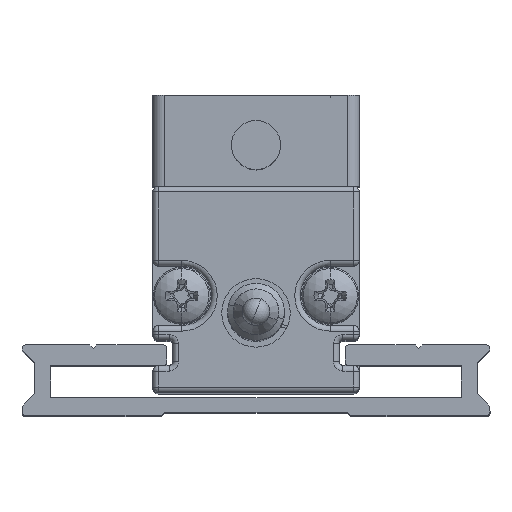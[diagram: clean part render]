
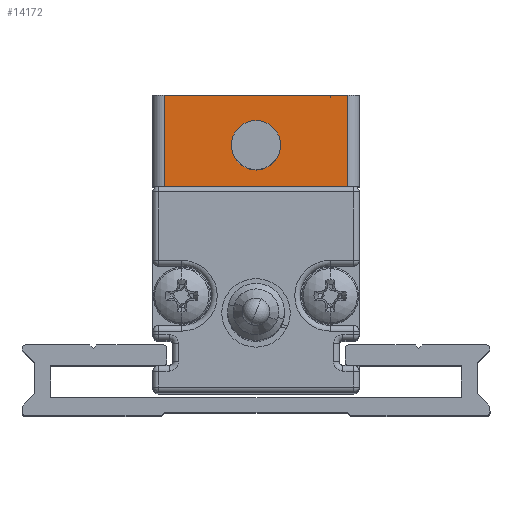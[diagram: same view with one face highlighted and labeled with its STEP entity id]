
A CAD part, top view. The second image highlights one B-rep face of the part: STEP entity #14172.
In plain terms, the highlighted planar face has unit normal (0, 0, 1).
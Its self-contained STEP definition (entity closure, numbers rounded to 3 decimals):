
#97 = DIRECTION ( 'NONE',  ( 0., -1., 0. ) ) ;
#398 = ORIENTED_EDGE ( 'NONE', *, *, #25614, .F. ) ;
#848 = VERTEX_POINT ( 'NONE', #13842 ) ;
#908 = PLANE ( 'NONE',  #1982 ) ;
#1701 = CIRCLE ( 'NONE', #24763, 2.15 ) ;
#1982 = AXIS2_PLACEMENT_3D ( 'NONE', #13107, #17726, #3291 ) ;
#2517 = VERTEX_POINT ( 'NONE', #5203 ) ;
#3124 = VERTEX_POINT ( 'NONE', #7926 ) ;
#3291 = DIRECTION ( 'NONE',  ( 0., 1., 0. ) ) ;
#4116 = DIRECTION ( 'NONE',  ( 0., 1., 0. ) ) ;
#4640 = CARTESIAN_POINT ( 'NONE',  ( -4.607, 14.115, 71.9 ) ) ;
#4952 = ORIENTED_EDGE ( 'NONE', *, *, #26579, .T. ) ;
#4955 = CARTESIAN_POINT ( 'NONE',  ( 3.443, 10.515, 71.9 ) ) ;
#5203 = CARTESIAN_POINT ( 'NONE',  ( -12.657, 18.515, 71.9 ) ) ;
#5858 = VECTOR ( 'NONE', #10776, 1000. ) ;
#7891 = VERTEX_POINT ( 'NONE', #4955 ) ;
#7926 = CARTESIAN_POINT ( 'NONE',  ( 3.443, 18.515, 71.9 ) ) ;
#9000 = VERTEX_POINT ( 'NONE', #25681 ) ;
#9732 = DIRECTION ( 'NONE',  ( -1., 0., 0. ) ) ;
#9859 = EDGE_CURVE ( 'NONE', #7891, #3124, #18779, .T. ) ;
#10776 = DIRECTION ( 'NONE',  ( -1., 0., 0. ) ) ;
#11058 = CARTESIAN_POINT ( 'NONE',  ( 3.443, 10.515, 71.9 ) ) ;
#11299 = CARTESIAN_POINT ( 'NONE',  ( -12.657, 10.515, 71.9 ) ) ;
#12644 = FACE_BOUND ( 'NONE', #17065, .T. ) ;
#13107 = CARTESIAN_POINT ( 'NONE',  ( -13.657, 10.515, 71.9 ) ) ;
#13420 = CARTESIAN_POINT ( 'NONE',  ( -4.607, 14.115, 71.9 ) ) ;
#13842 = CARTESIAN_POINT ( 'NONE',  ( -4.607, 16.265, 71.9 ) ) ;
#14172 = ADVANCED_FACE ( 'NONE', ( #12644, #23843 ), #908, .F. ) ;
#14296 = DIRECTION ( 'NONE',  ( 0., 0., 1. ) ) ;
#14627 = ORIENTED_EDGE ( 'NONE', *, *, #19566, .F. ) ;
#15146 = LINE ( 'NONE', #19924, #5858 ) ;
#15860 = VECTOR ( 'NONE', #23129, 1000. ) ;
#17065 = EDGE_LOOP ( 'NONE', ( #25042, #14627 ) ) ;
#17415 = CARTESIAN_POINT ( 'NONE',  ( -13.657, 18.515, 71.9 ) ) ;
#17726 = DIRECTION ( 'NONE',  ( 0., 0., -1. ) ) ;
#18022 = VECTOR ( 'NONE', #4116, 1000. ) ;
#18779 = LINE ( 'NONE', #11058, #18022 ) ;
#19566 = EDGE_CURVE ( 'NONE', #848, #9000, #25642, .T. ) ;
#19924 = CARTESIAN_POINT ( 'NONE',  ( -13.657, 10.515, 71.9 ) ) ;
#21794 = LINE ( 'NONE', #17415, #28880 ) ;
#22116 = ORIENTED_EDGE ( 'NONE', *, *, #9859, .T. ) ;
#22579 = DIRECTION ( 'NONE',  ( 0., 0., 1. ) ) ;
#22760 = AXIS2_PLACEMENT_3D ( 'NONE', #13420, #22579, #27700 ) ;
#23129 = DIRECTION ( 'NONE',  ( 0., -1., 0. ) ) ;
#23843 = FACE_OUTER_BOUND ( 'NONE', #26370, .T. ) ;
#24763 = AXIS2_PLACEMENT_3D ( 'NONE', #4640, #14296, #97 ) ;
#25042 = ORIENTED_EDGE ( 'NONE', *, *, #27134, .F. ) ;
#25614 = EDGE_CURVE ( 'NONE', #7891, #26392, #15146, .T. ) ;
#25642 = CIRCLE ( 'NONE', #22760, 2.15 ) ;
#25681 = CARTESIAN_POINT ( 'NONE',  ( -4.607, 11.965, 71.9 ) ) ;
#26370 = EDGE_LOOP ( 'NONE', ( #29116, #4952, #398, #22116 ) ) ;
#26392 = VERTEX_POINT ( 'NONE', #26847 ) ;
#26579 = EDGE_CURVE ( 'NONE', #2517, #26392, #29648, .T. ) ;
#26802 = EDGE_CURVE ( 'NONE', #3124, #2517, #21794, .T. ) ;
#26847 = CARTESIAN_POINT ( 'NONE',  ( -12.657, 10.515, 71.9 ) ) ;
#27134 = EDGE_CURVE ( 'NONE', #9000, #848, #1701, .T. ) ;
#27700 = DIRECTION ( 'NONE',  ( 0., -1., 0. ) ) ;
#28880 = VECTOR ( 'NONE', #9732, 1000. ) ;
#29116 = ORIENTED_EDGE ( 'NONE', *, *, #26802, .T. ) ;
#29648 = LINE ( 'NONE', #11299, #15860 ) ;
